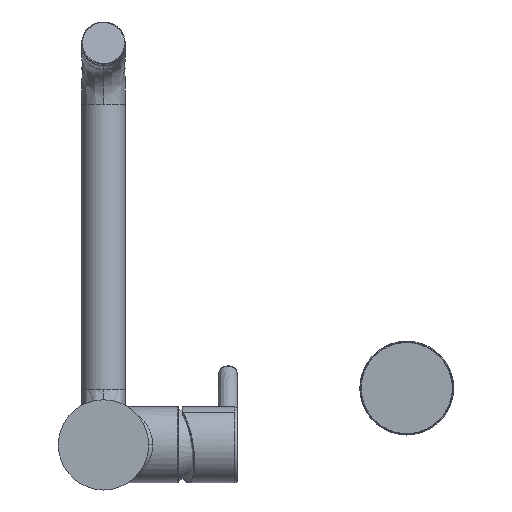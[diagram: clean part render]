
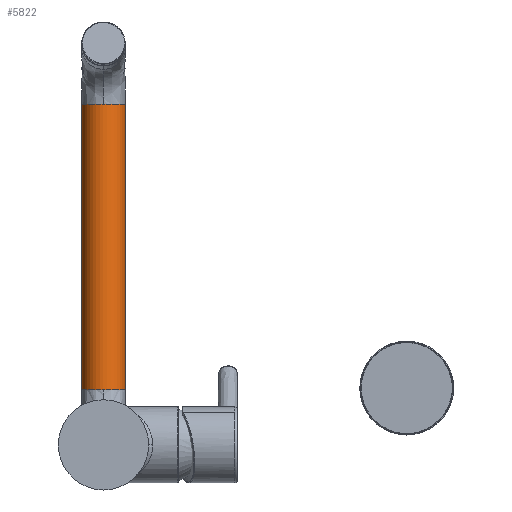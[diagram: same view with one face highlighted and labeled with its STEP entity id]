
A CAD part, front view. The second image highlights one B-rep face of the part: STEP entity #5822.
In plain terms, the highlighted cylindrical face has radius 12 mm (diameter 24 mm), a partial arc.
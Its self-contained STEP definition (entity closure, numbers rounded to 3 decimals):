
#366 = CARTESIAN_POINT ( 'NONE',  ( -12., 317.9, 188.599 ) ) ;
#511 = VERTEX_POINT ( 'NONE', #7359 ) ;
#548 = LINE ( 'NONE', #9158, #5676 ) ;
#694 = ORIENTED_EDGE ( 'NONE', *, *, #7481, .T. ) ;
#1477 = CIRCLE ( 'NONE', #6855, 12. ) ;
#1826 = LINE ( 'NONE', #3840, #7550 ) ;
#1884 = EDGE_CURVE ( 'NONE', #3273, #7810, #548, .T. ) ;
#2000 = EDGE_CURVE ( 'NONE', #9311, #3998, #1826, .T. ) ;
#2212 = DIRECTION ( 'NONE',  ( 1., 0., 0. ) ) ;
#2481 = CARTESIAN_POINT ( 'NONE',  ( 12., 317.9, 30.6 ) ) ;
#2577 = DIRECTION ( 'NONE',  ( 1., 0., 0. ) ) ;
#2991 = CARTESIAN_POINT ( 'NONE',  ( -12., 317.9, 30.6 ) ) ;
#3167 = DIRECTION ( 'NONE',  ( 0., 0., -1. ) ) ;
#3273 = VERTEX_POINT ( 'NONE', #2991 ) ;
#3840 = CARTESIAN_POINT ( 'NONE',  ( 12., 317.9, 27.44 ) ) ;
#3898 = CIRCLE ( 'NONE', #9647, 12. ) ;
#3912 = DIRECTION ( 'NONE',  ( 1., 0., 0. ) ) ;
#3998 = VERTEX_POINT ( 'NONE', #5940 ) ;
#4141 = DIRECTION ( 'NONE',  ( 0., 0., 1. ) ) ;
#4363 = ORIENTED_EDGE ( 'NONE', *, *, #7684, .T. ) ;
#4448 = ORIENTED_EDGE ( 'NONE', *, *, #1884, .F. ) ;
#4614 = AXIS2_PLACEMENT_3D ( 'NONE', #4769, #4141, #7785 ) ;
#4769 = CARTESIAN_POINT ( 'NONE',  ( 0., 317.9, 30.6 ) ) ;
#4811 = EDGE_CURVE ( 'NONE', #7074, #7810, #1477, .T. ) ;
#4862 = CYLINDRICAL_SURFACE ( 'NONE', #7027, 12. ) ;
#5174 = CIRCLE ( 'NONE', #4614, 12. ) ;
#5237 = DIRECTION ( 'NONE',  ( 0., 0., 1. ) ) ;
#5373 = CARTESIAN_POINT ( 'NONE',  ( 0., 317.9, 188.599 ) ) ;
#5403 = CIRCLE ( 'NONE', #8413, 12. ) ;
#5422 = CARTESIAN_POINT ( 'NONE',  ( 0., 317.9, 188.599 ) ) ;
#5676 = VECTOR ( 'NONE', #7674, 1000. ) ;
#5822 = ADVANCED_FACE ( 'NONE', ( #8829 ), #4862, .T. ) ;
#5854 = DIRECTION ( 'NONE',  ( 0., 0., 1. ) ) ;
#5940 = CARTESIAN_POINT ( 'NONE',  ( 12., 317.9, 188.599 ) ) ;
#5963 = ORIENTED_EDGE ( 'NONE', *, *, #4811, .T. ) ;
#6222 = DIRECTION ( 'NONE',  ( 0., 0., -1. ) ) ;
#6855 = AXIS2_PLACEMENT_3D ( 'NONE', #5373, #3167, #3912 ) ;
#7027 = AXIS2_PLACEMENT_3D ( 'NONE', #7778, #7099, #8531 ) ;
#7074 = VERTEX_POINT ( 'NONE', #8622 ) ;
#7099 = DIRECTION ( 'NONE',  ( 0., 0., 1. ) ) ;
#7234 = ORIENTED_EDGE ( 'NONE', *, *, #8161, .T. ) ;
#7359 = CARTESIAN_POINT ( 'NONE',  ( 0., 305.9, 30.6 ) ) ;
#7481 = EDGE_CURVE ( 'NONE', #511, #9311, #5403, .T. ) ;
#7550 = VECTOR ( 'NONE', #5237, 1000. ) ;
#7674 = DIRECTION ( 'NONE',  ( 0., 0., 1. ) ) ;
#7684 = EDGE_CURVE ( 'NONE', #3273, #511, #5174, .T. ) ;
#7778 = CARTESIAN_POINT ( 'NONE',  ( 0., 317.9, 27.44 ) ) ;
#7785 = DIRECTION ( 'NONE',  ( 1., 0., 0. ) ) ;
#7810 = VERTEX_POINT ( 'NONE', #366 ) ;
#8161 = EDGE_CURVE ( 'NONE', #3998, #7074, #3898, .T. ) ;
#8413 = AXIS2_PLACEMENT_3D ( 'NONE', #9624, #5854, #2212 ) ;
#8531 = DIRECTION ( 'NONE',  ( 1., 0., 0. ) ) ;
#8622 = CARTESIAN_POINT ( 'NONE',  ( 0., 305.9, 188.599 ) ) ;
#8829 = FACE_OUTER_BOUND ( 'NONE', #9422, .T. ) ;
#8867 = ORIENTED_EDGE ( 'NONE', *, *, #2000, .T. ) ;
#9158 = CARTESIAN_POINT ( 'NONE',  ( -12., 317.9, 27.44 ) ) ;
#9311 = VERTEX_POINT ( 'NONE', #2481 ) ;
#9422 = EDGE_LOOP ( 'NONE', ( #4448, #4363, #694, #8867, #7234, #5963 ) ) ;
#9624 = CARTESIAN_POINT ( 'NONE',  ( 0., 317.9, 30.6 ) ) ;
#9647 = AXIS2_PLACEMENT_3D ( 'NONE', #5422, #6222, #2577 ) ;
